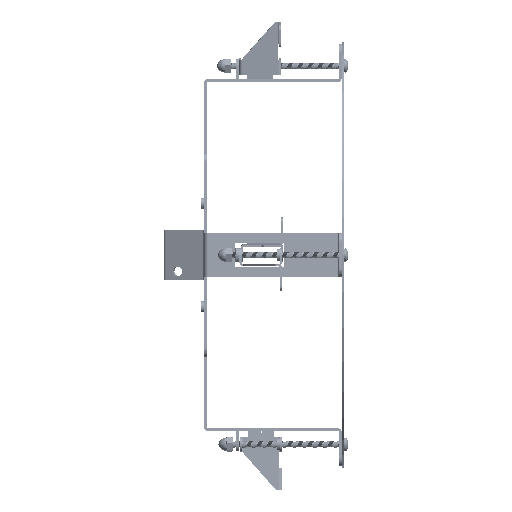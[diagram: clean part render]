
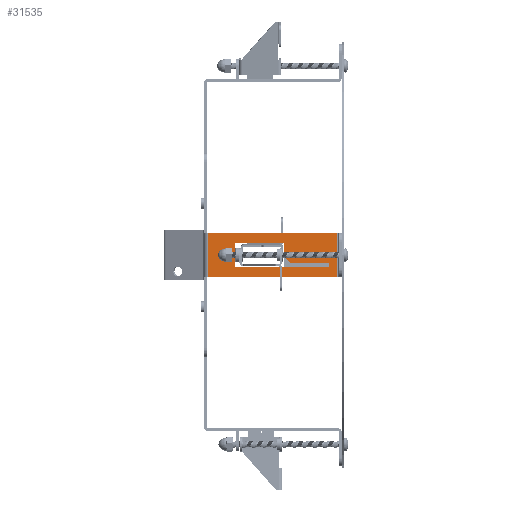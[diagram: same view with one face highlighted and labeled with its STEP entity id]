
A CAD part, left-side view. The second image highlights one B-rep face of the part: STEP entity #31535.
In plain terms, the highlighted planar face has unit normal (-1, 0, 0).
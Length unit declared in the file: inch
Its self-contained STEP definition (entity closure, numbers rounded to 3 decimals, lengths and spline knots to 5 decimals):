
#1181 = VECTOR ( 'NONE', #39668, 39.37008 ) ;
#1307 = EDGE_CURVE ( 'NONE', #19798, #4377, #32696, .T. ) ;
#1700 = CARTESIAN_POINT ( 'NONE',  ( -4.955, -3.51937, -0.2125 ) ) ;
#1982 = VECTOR ( 'NONE', #30466, 39.37008 ) ;
#2822 = VERTEX_POINT ( 'NONE', #43355 ) ;
#2904 = CARTESIAN_POINT ( 'NONE',  ( -4.955, -0.11937, 0. ) ) ;
#3427 = EDGE_CURVE ( 'NONE', #47361, #38207, #30086, .T. ) ;
#4361 = VERTEX_POINT ( 'NONE', #33590 ) ;
#4377 = VERTEX_POINT ( 'NONE', #25888 ) ;
#4414 = DIRECTION ( 'NONE',  ( 0., 1., 0. ) ) ;
#4426 = LINE ( 'NONE', #19500, #1982 ) ;
#4681 = LINE ( 'NONE', #19257, #9348 ) ;
#4750 = VECTOR ( 'NONE', #16788, 39.37008 ) ;
#5437 = ORIENTED_EDGE ( 'NONE', *, *, #13704, .F. ) ;
#6255 = VECTOR ( 'NONE', #30630, 39.37008 ) ;
#6715 = CARTESIAN_POINT ( 'NONE',  ( -4.955, -3.76563, -0.625 ) ) ;
#7089 = DIRECTION ( 'NONE',  ( -1., 0., 0. ) ) ;
#7605 = EDGE_CURVE ( 'NONE', #32399, #19798, #33429, .T. ) ;
#7814 = PLANE ( 'NONE',  #40284 ) ;
#8674 = ORIENTED_EDGE ( 'NONE', *, *, #13794, .F. ) ;
#9348 = VECTOR ( 'NONE', #19769, 39.37008 ) ;
#9449 = EDGE_CURVE ( 'NONE', #2822, #39436, #19418, .T. ) ;
#9964 = EDGE_CURVE ( 'NONE', #36611, #38069, #14358, .T. ) ;
#10086 = VERTEX_POINT ( 'NONE', #47757 ) ;
#10283 = VERTEX_POINT ( 'NONE', #28204 ) ;
#11820 = VECTOR ( 'NONE', #25958, 39.37008 ) ;
#11963 = CARTESIAN_POINT ( 'NONE',  ( -4.955, -2.26937, -0.0625 ) ) ;
#12190 = CARTESIAN_POINT ( 'NONE',  ( -4.955, -0.86937, 0.20535 ) ) ;
#12238 = DIRECTION ( 'NONE',  ( 0., 0., -1. ) ) ;
#12423 = VERTEX_POINT ( 'NONE', #27262 ) ;
#13013 = DIRECTION ( 'NONE',  ( 0., 0.707, 0.707 ) ) ;
#13704 = EDGE_CURVE ( 'NONE', #39436, #47361, #4426, .T. ) ;
#13794 = EDGE_CURVE ( 'NONE', #4377, #12423, #35686, .T. ) ;
#13810 = CARTESIAN_POINT ( 'NONE',  ( -4.955, -3.51937, -0.2125 ) ) ;
#13929 = CARTESIAN_POINT ( 'NONE',  ( -4.955, -0.08, -0.625 ) ) ;
#14358 = LINE ( 'NONE', #18314, #47590 ) ;
#14708 = CARTESIAN_POINT ( 'NONE',  ( -4.955, 0., 0. ) ) ;
#15785 = CARTESIAN_POINT ( 'NONE',  ( -4.955, -0.86937, 0.3375 ) ) ;
#15862 = VECTOR ( 'NONE', #4414, 39.37008 ) ;
#16604 = ORIENTED_EDGE ( 'NONE', *, *, #9449, .F. ) ;
#16721 = LINE ( 'NONE', #36376, #35627 ) ;
#16788 = DIRECTION ( 'NONE',  ( 0., 0., 1. ) ) ;
#17159 = ORIENTED_EDGE ( 'NONE', *, *, #7605, .F. ) ;
#17803 = CARTESIAN_POINT ( 'NONE',  ( -4.955, -2.26937, 0.3375 ) ) ;
#18314 = CARTESIAN_POINT ( 'NONE',  ( -4.955, -2.26937, 0.3375 ) ) ;
#18670 = DIRECTION ( 'NONE',  ( 0., -1., 0. ) ) ;
#19257 = CARTESIAN_POINT ( 'NONE',  ( -4.955, -0.86937, -0.3375 ) ) ;
#19418 = LINE ( 'NONE', #26428, #6255 ) ;
#19500 = CARTESIAN_POINT ( 'NONE',  ( -4.955, -3.76563, 0.625 ) ) ;
#19769 = DIRECTION ( 'NONE',  ( 0., 0., -1. ) ) ;
#19798 = VERTEX_POINT ( 'NONE', #40870 ) ;
#19880 = ORIENTED_EDGE ( 'NONE', *, *, #1307, .F. ) ;
#20984 = ORIENTED_EDGE ( 'NONE', *, *, #3427, .F. ) ;
#21151 = VECTOR ( 'NONE', #45150, 39.37008 ) ;
#22082 = EDGE_CURVE ( 'NONE', #4361, #32399, #4681, .T. ) ;
#22657 = FACE_OUTER_BOUND ( 'NONE', #32377, .T. ) ;
#23115 = ORIENTED_EDGE ( 'NONE', *, *, #9964, .F. ) ;
#23815 = ORIENTED_EDGE ( 'NONE', *, *, #22082, .F. ) ;
#24450 = CARTESIAN_POINT ( 'NONE',  ( -4.955, -0.86937, -0.3375 ) ) ;
#24709 = FACE_BOUND ( 'NONE', #27634, .T. ) ;
#25888 = CARTESIAN_POINT ( 'NONE',  ( -4.955, -3.51937, -0.2125 ) ) ;
#25958 = DIRECTION ( 'NONE',  ( 0., 0., -1. ) ) ;
#26153 = DIRECTION ( 'NONE',  ( 0., 0., -1. ) ) ;
#26428 = CARTESIAN_POINT ( 'NONE',  ( -4.955, -3.805, 0.625 ) ) ;
#26839 = EDGE_CURVE ( 'NONE', #2822, #38207, #36894, .T. ) ;
#27262 = CARTESIAN_POINT ( 'NONE',  ( -4.955, -2.41937, -0.2125 ) ) ;
#27634 = EDGE_LOOP ( 'NONE', ( #23115, #43828, #8674, #19880, #17159, #23815, #40567, #48333, #45874 ) ) ;
#28204 = CARTESIAN_POINT ( 'NONE',  ( -4.955, -0.86937, 0.20535 ) ) ;
#30086 = LINE ( 'NONE', #13929, #32168 ) ;
#30466 = DIRECTION ( 'NONE',  ( 0., 0., -1. ) ) ;
#30630 = DIRECTION ( 'NONE',  ( 0., -1., 0. ) ) ;
#30794 = LINE ( 'NONE', #12190, #46040 ) ;
#31535 = ADVANCED_FACE ( 'NONE', ( #24709, #22657 ), #7814, .T. ) ;
#32168 = VECTOR ( 'NONE', #44773, 39.37008 ) ;
#32377 = EDGE_LOOP ( 'NONE', ( #20984, #5437, #16604, #44372 ) ) ;
#32399 = VERTEX_POINT ( 'NONE', #24450 ) ;
#32696 = LINE ( 'NONE', #13810, #4750 ) ;
#32770 = DIRECTION ( 'NONE',  ( 0., 0., 1. ) ) ;
#33429 = LINE ( 'NONE', #48640, #21151 ) ;
#33590 = CARTESIAN_POINT ( 'NONE',  ( -4.955, -0.86937, -0.20535 ) ) ;
#34915 = EDGE_CURVE ( 'NONE', #10283, #4361, #30794, .T. ) ;
#35309 = LINE ( 'NONE', #46525, #41788 ) ;
#35627 = VECTOR ( 'NONE', #13013, 39.37008 ) ;
#35686 = LINE ( 'NONE', #1700, #1181 ) ;
#36376 = CARTESIAN_POINT ( 'NONE',  ( -4.955, -2.41937, -0.2125 ) ) ;
#36611 = VERTEX_POINT ( 'NONE', #11963 ) ;
#36894 = LINE ( 'NONE', #2904, #11820 ) ;
#38069 = VERTEX_POINT ( 'NONE', #17803 ) ;
#38207 = VERTEX_POINT ( 'NONE', #38226 ) ;
#38226 = CARTESIAN_POINT ( 'NONE',  ( -4.955, -0.11937, -0.625 ) ) ;
#39436 = VERTEX_POINT ( 'NONE', #45855 ) ;
#39668 = DIRECTION ( 'NONE',  ( 0., 1., 0. ) ) ;
#40284 = AXIS2_PLACEMENT_3D ( 'NONE', #14708, #7089, #18670 ) ;
#40567 = ORIENTED_EDGE ( 'NONE', *, *, #34915, .F. ) ;
#40870 = CARTESIAN_POINT ( 'NONE',  ( -4.955, -3.51937, -0.3375 ) ) ;
#41092 = EDGE_CURVE ( 'NONE', #10086, #10283, #35309, .T. ) ;
#41788 = VECTOR ( 'NONE', #12238, 39.37008 ) ;
#42387 = EDGE_CURVE ( 'NONE', #12423, #36611, #16721, .T. ) ;
#43355 = CARTESIAN_POINT ( 'NONE',  ( -4.955, -0.11937, 0.625 ) ) ;
#43828 = ORIENTED_EDGE ( 'NONE', *, *, #42387, .F. ) ;
#44372 = ORIENTED_EDGE ( 'NONE', *, *, #26839, .T. ) ;
#44773 = DIRECTION ( 'NONE',  ( 0., 1., 0. ) ) ;
#45150 = DIRECTION ( 'NONE',  ( 0., -1., 0. ) ) ;
#45855 = CARTESIAN_POINT ( 'NONE',  ( -4.955, -3.76563, 0.625 ) ) ;
#45874 = ORIENTED_EDGE ( 'NONE', *, *, #47885, .F. ) ;
#46040 = VECTOR ( 'NONE', #26153, 39.37008 ) ;
#46525 = CARTESIAN_POINT ( 'NONE',  ( -4.955, -0.86937, -0.3375 ) ) ;
#47361 = VERTEX_POINT ( 'NONE', #6715 ) ;
#47590 = VECTOR ( 'NONE', #32770, 39.37008 ) ;
#47757 = CARTESIAN_POINT ( 'NONE',  ( -4.955, -0.86937, 0.3375 ) ) ;
#47885 = EDGE_CURVE ( 'NONE', #38069, #10086, #49158, .T. ) ;
#48333 = ORIENTED_EDGE ( 'NONE', *, *, #41092, .F. ) ;
#48640 = CARTESIAN_POINT ( 'NONE',  ( -4.955, -0.86937, -0.3375 ) ) ;
#49158 = LINE ( 'NONE', #15785, #15862 ) ;
